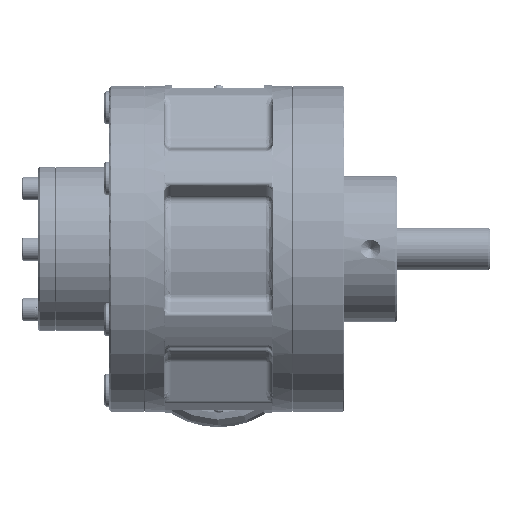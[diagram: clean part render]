
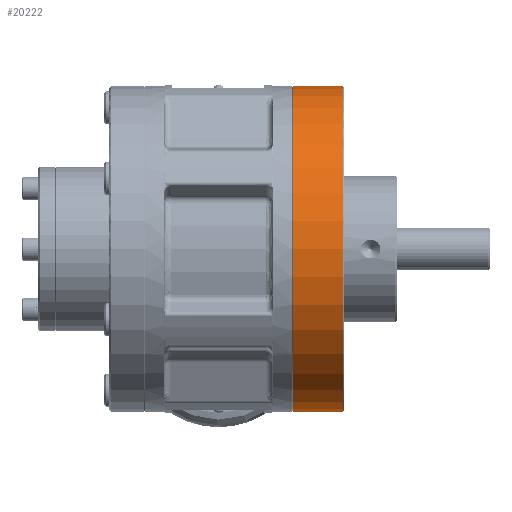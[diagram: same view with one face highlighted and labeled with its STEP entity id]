
A CAD part, front view. The second image highlights one B-rep face of the part: STEP entity #20222.
In plain terms, the highlighted cylindrical face has radius 49.5 mm (diameter 99 mm), a partial arc.
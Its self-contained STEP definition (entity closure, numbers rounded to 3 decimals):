
#3337 = CARTESIAN_POINT ( 'NONE',  ( 43.8, 0., -49.5 ) ) ;
#4316 = DIRECTION ( 'NONE',  ( -1., 0., 0. ) ) ;
#11771 = DIRECTION ( 'NONE',  ( 1., 0., 0. ) ) ;
#17816 = CARTESIAN_POINT ( 'NONE',  ( 22.8, 0., 49.5 ) ) ;
#20222 = ADVANCED_FACE ( 'NONE', ( #23030 ), #168730, .T. ) ;
#21778 = ORIENTED_EDGE ( 'NONE', *, *, #127382, .F. ) ;
#23030 = FACE_OUTER_BOUND ( 'NONE', #101676, .T. ) ;
#33005 = ORIENTED_EDGE ( 'NONE', *, *, #178837, .T. ) ;
#38574 = AXIS2_PLACEMENT_3D ( 'NONE', #106036, #11771, #43033 ) ;
#43033 = DIRECTION ( 'NONE',  ( 0., 0., 1. ) ) ;
#51843 = VERTEX_POINT ( 'NONE', #17816 ) ;
#57994 = VERTEX_POINT ( 'NONE', #122576 ) ;
#61392 = LINE ( 'NONE', #3337, #147919 ) ;
#63214 = VECTOR ( 'NONE', #4316, 1000. ) ;
#63393 = AXIS2_PLACEMENT_3D ( 'NONE', #136466, #200964, #91588 ) ;
#64428 = DIRECTION ( 'NONE',  ( -1., 0., 0. ) ) ;
#69571 = ORIENTED_EDGE ( 'NONE', *, *, #77255, .T. ) ;
#70580 = AXIS2_PLACEMENT_3D ( 'NONE', #94911, #154735, #155426 ) ;
#77255 = EDGE_CURVE ( 'NONE', #51843, #112634, #144999, .T. ) ;
#83817 = CARTESIAN_POINT ( 'NONE',  ( 37.8, 0., -49.5 ) ) ;
#85270 = CARTESIAN_POINT ( 'NONE',  ( 22.8, 0., -49.5 ) ) ;
#91588 = DIRECTION ( 'NONE',  ( 0., 0., 1. ) ) ;
#94911 = CARTESIAN_POINT ( 'NONE',  ( 37.8, 0., 0. ) ) ;
#101676 = EDGE_LOOP ( 'NONE', ( #121521, #21778, #33005, #69571 ) ) ;
#106036 = CARTESIAN_POINT ( 'NONE',  ( 22.8, 0., 0. ) ) ;
#109259 = VERTEX_POINT ( 'NONE', #83817 ) ;
#111559 = CARTESIAN_POINT ( 'NONE',  ( 43.8, 0., 49.5 ) ) ;
#112634 = VERTEX_POINT ( 'NONE', #85270 ) ;
#121521 = ORIENTED_EDGE ( 'NONE', *, *, #138858, .F. ) ;
#122576 = CARTESIAN_POINT ( 'NONE',  ( 37.8, 0., 49.5 ) ) ;
#127382 = EDGE_CURVE ( 'NONE', #57994, #109259, #181327, .T. ) ;
#136466 = CARTESIAN_POINT ( 'NONE',  ( 43.8, 0., 0. ) ) ;
#138858 = EDGE_CURVE ( 'NONE', #109259, #112634, #61392, .T. ) ;
#144999 = CIRCLE ( 'NONE', #38574, 49.5 ) ;
#147919 = VECTOR ( 'NONE', #64428, 1000. ) ;
#154735 = DIRECTION ( 'NONE',  ( 1., 0., 0. ) ) ;
#155426 = DIRECTION ( 'NONE',  ( 0., 0., -1. ) ) ;
#168730 = CYLINDRICAL_SURFACE ( 'NONE', #63393, 49.5 ) ;
#170202 = LINE ( 'NONE', #111559, #63214 ) ;
#178837 = EDGE_CURVE ( 'NONE', #57994, #51843, #170202, .T. ) ;
#181327 = CIRCLE ( 'NONE', #70580, 49.5 ) ;
#200964 = DIRECTION ( 'NONE',  ( -1., 0., 0. ) ) ;
